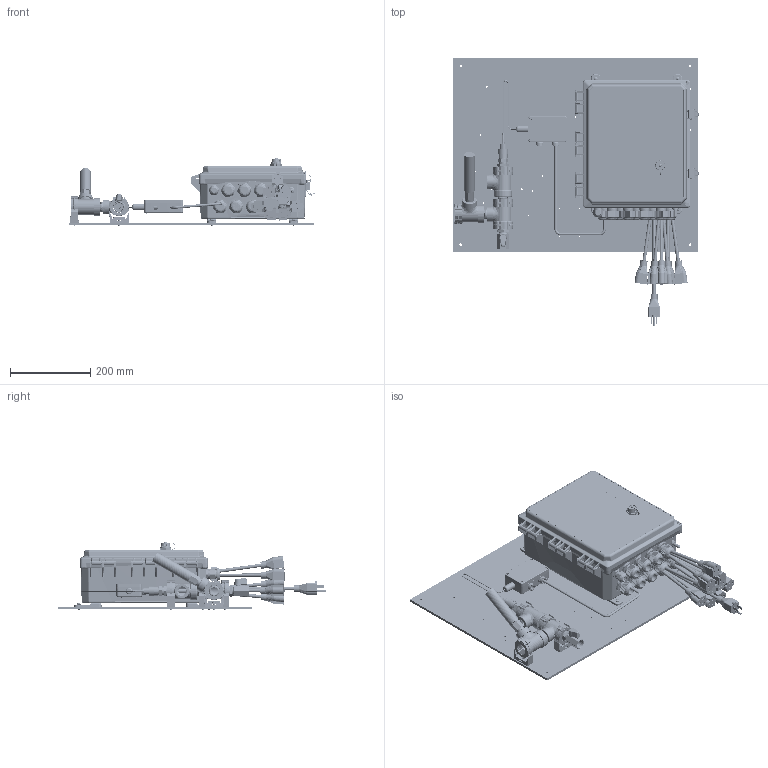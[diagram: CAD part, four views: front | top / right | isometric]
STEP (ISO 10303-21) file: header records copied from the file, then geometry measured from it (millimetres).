
FILE_DESCRIPTION (( 'STEP AP203' ), '1' );
FILE_NAME ('W900-CT-HGNNNN.STEP', '2019-05-21T20:37:05', ( '' ), ( '' ), 'SwSTEP 2.0', 'SolidWorks 2019', '' );
FILE_SCHEMA (( 'CONFIG_CONTROL_DESIGN' ));
Products named in the file (40): 103860_Cord1; SHELL-102961ws; SHELL-103058; SHELL-191669 body_drilled thru; SHELL-103283-FT; SHELL-101538_92470A121; 103861; SHELL-102437_4882K14; SHELL-191669_ORING; IMS0035_91500A537; SHELL-191949; ISA0006; SHELL-102962; SHELL-191669 lock; SHELL-103893_91772A829; SHELL-191634; SHELL-191669 cap_Drilled out; 102907; W900-CT-HGNNNN Manifold; SHELL-102692; SHELL-104031_4513K347; SHELL-191669; 102903_102903; SHELL-102961_30075T212; W900-CT-HGNNNN; SHELL-103859_Cord1; SHELL-103056_4912K4; SHELL-PK 102 OT; 102906; SHELL-103886_98273A320; W900 Shell; SHELL-102029; SHELL-PK 102-211 UT_PK 102-211 UT-02
Assembly tree (76 placements, depth 4):
  W900-CT-HGNNNN
    W900 Shell
      W900 Shell
      SHELL-103283-FT  x4
      IMS0035_91500A537  x4
      SHELL-103893_91772A829  x4
      ISA0006
        102907
        102903_102903
        102906
        103860_Cord1  x3
        103861
      ISA0006
        102907
        102903_102903
        102906
        103860_Cord1  x3
        103861
      ISA0006
        102907
        102903_102903
        102906
        103860_Cord1  x3
        103861
      SHELL-103859_Cord1
    W900-CT-HGNNNN Manifold
      SHELL-103058  x2
      SHELL-102437_4882K14  x2
      SHELL-102962
        SHELL-103058
        SHELL-102962
      SHELL-104031_4513K347  x2
      SHELL-103056_4912K4
      SHELL-102029
      SHELL-191669
        SHELL-191669 body_drilled thru
        SHELL-191669_ORING
        SHELL-191669 lock
        SHELL-191669 cap_Drilled out
      SHELL-191949
        SHELL-PK 102 OT
        SHELL-PK 102-211 UT_PK 102-211 UT-02
        SHELL-101538_92470A121  x2
      SHELL-191634
      SHELL-191669 cap_Drilled out
    SHELL-102961ws
      SHELL-102961_30075T212
      SHELL-103886_98273A320
    SHELL-102961ws
      SHELL-102961_30075T212
      SHELL-103886_98273A320
    SHELL-102961ws
      SHELL-102961_30075T212
      SHELL-103886_98273A320
    SHELL-102961ws
      SHELL-102961_30075T212
      SHELL-103886_98273A320
    SHELL-102692
Bounding box: 612.29 x 665.28 x 171.79 mm (x, y, z)
Volume: 4398523.9 mm3; surface area: 1985754.9 mm2
Topology: 834 solids, 834 shells, 21183 faces, 55329 edges, 35974 vertices
Faces by surface type: plane 9644, cylinder 6534, bspline 3465, cone 1032, torus 431, sphere 77
Entity records: 636573 total; most frequent: CARTESIAN_POINT 299389, ORIENTED_EDGE 78408, DIRECTION 55810, EDGE_CURVE 39204, VERTEX_POINT 25333, AXIS2_PLACEMENT_3D 19217, VECTOR 17376, LINE 17376
